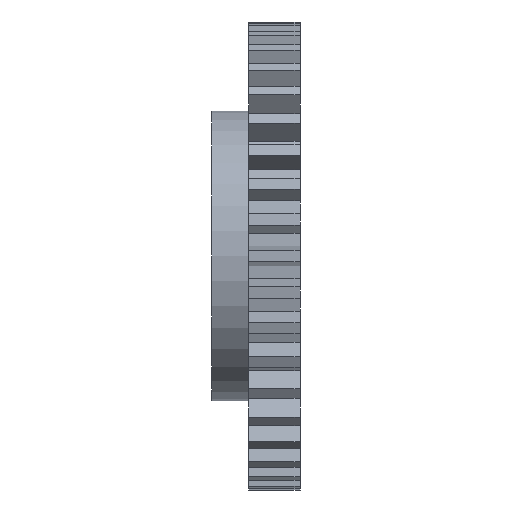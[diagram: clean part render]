
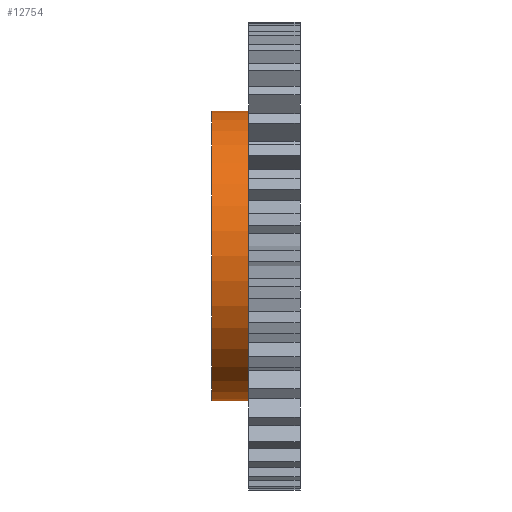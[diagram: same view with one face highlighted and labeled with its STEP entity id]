
A CAD part, front view. The second image highlights one B-rep face of the part: STEP entity #12754.
In plain terms, the highlighted cylindrical face has radius 19.5 mm (diameter 39 mm), a full revolution.
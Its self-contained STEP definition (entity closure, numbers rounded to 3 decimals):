
#126 = PLANE('',#127);
#127 = AXIS2_PLACEMENT_3D('',#128,#129,#130);
#128 = CARTESIAN_POINT('',(69.,0.,-165.));
#129 = DIRECTION('',(1.,0.,0.));
#130 = DIRECTION('',(0.,-1.,0.));
#4682 = EDGE_CURVE('',#4683,#4683,#4685,.T.);
#4683 = VERTEX_POINT('',#4684);
#4684 = CARTESIAN_POINT('',(69.,0.,-145.5));
#4685 = SURFACE_CURVE('',#4686,(#4691,#4698),.PCURVE_S1.);
#4686 = CIRCLE('',#4687,19.5);
#4687 = AXIS2_PLACEMENT_3D('',#4688,#4689,#4690);
#4688 = CARTESIAN_POINT('',(69.,0.,-165.));
#4689 = DIRECTION('',(1.,0.,0.));
#4690 = DIRECTION('',(-0.,0.,1.));
#4691 = PCURVE('',#126,#4692);
#4692 = DEFINITIONAL_REPRESENTATION('',(#4693),#4697);
#4693 = CIRCLE('',#4694,19.5);
#4694 = AXIS2_PLACEMENT_2D('',#4695,#4696);
#4695 = CARTESIAN_POINT('',(0.,0.));
#4696 = DIRECTION('',(0.,-1.));
#4697 = ( GEOMETRIC_REPRESENTATION_CONTEXT(2) 
PARAMETRIC_REPRESENTATION_CONTEXT() REPRESENTATION_CONTEXT('2D SPACE',''
  ) );
#4698 = PCURVE('',#4699,#4704);
#4699 = CYLINDRICAL_SURFACE('',#4700,19.5);
#4700 = AXIS2_PLACEMENT_3D('',#4701,#4702,#4703);
#4701 = CARTESIAN_POINT('',(64.05,0.,-165.));
#4702 = DIRECTION('',(1.,0.,0.));
#4703 = DIRECTION('',(-0.,0.,1.));
#4704 = DEFINITIONAL_REPRESENTATION('',(#4705),#4709);
#4705 = LINE('',#4706,#4707);
#4706 = CARTESIAN_POINT('',(0.,4.95));
#4707 = VECTOR('',#4708,1.);
#4708 = DIRECTION('',(1.,0.));
#4709 = ( GEOMETRIC_REPRESENTATION_CONTEXT(2) 
PARAMETRIC_REPRESENTATION_CONTEXT() REPRESENTATION_CONTEXT('2D SPACE',''
  ) );
#12754 = ADVANCED_FACE('',(#12755),#4699,.T.);
#12755 = FACE_BOUND('',#12756,.T.);
#12756 = EDGE_LOOP('',(#12757,#12758,#12781,#12808));
#12757 = ORIENTED_EDGE('',*,*,#4682,.F.);
#12758 = ORIENTED_EDGE('',*,*,#12759,.F.);
#12759 = EDGE_CURVE('',#12760,#4683,#12762,.T.);
#12760 = VERTEX_POINT('',#12761);
#12761 = CARTESIAN_POINT('',(64.05,0.,-145.5));
#12762 = SEAM_CURVE('',#12763,(#12767,#12774),.PCURVE_S1.);
#12763 = LINE('',#12764,#12765);
#12764 = CARTESIAN_POINT('',(64.05,0.,-145.5));
#12765 = VECTOR('',#12766,1.);
#12766 = DIRECTION('',(1.,0.,0.));
#12767 = PCURVE('',#4699,#12768);
#12768 = DEFINITIONAL_REPRESENTATION('',(#12769),#12773);
#12769 = LINE('',#12770,#12771);
#12770 = CARTESIAN_POINT('',(6.283,-0.));
#12771 = VECTOR('',#12772,1.);
#12772 = DIRECTION('',(0.,1.));
#12773 = ( GEOMETRIC_REPRESENTATION_CONTEXT(2) 
PARAMETRIC_REPRESENTATION_CONTEXT() REPRESENTATION_CONTEXT('2D SPACE',''
  ) );
#12774 = PCURVE('',#4699,#12775);
#12775 = DEFINITIONAL_REPRESENTATION('',(#12776),#12780);
#12776 = LINE('',#12777,#12778);
#12777 = CARTESIAN_POINT('',(0.,-0.));
#12778 = VECTOR('',#12779,1.);
#12779 = DIRECTION('',(0.,1.));
#12780 = ( GEOMETRIC_REPRESENTATION_CONTEXT(2) 
PARAMETRIC_REPRESENTATION_CONTEXT() REPRESENTATION_CONTEXT('2D SPACE',''
  ) );
#12781 = ORIENTED_EDGE('',*,*,#12782,.T.);
#12782 = EDGE_CURVE('',#12760,#12760,#12783,.T.);
#12783 = SURFACE_CURVE('',#12784,(#12789,#12796),.PCURVE_S1.);
#12784 = CIRCLE('',#12785,19.5);
#12785 = AXIS2_PLACEMENT_3D('',#12786,#12787,#12788);
#12786 = CARTESIAN_POINT('',(64.05,0.,-165.));
#12787 = DIRECTION('',(1.,0.,0.));
#12788 = DIRECTION('',(-0.,0.,1.));
#12789 = PCURVE('',#4699,#12790);
#12790 = DEFINITIONAL_REPRESENTATION('',(#12791),#12795);
#12791 = LINE('',#12792,#12793);
#12792 = CARTESIAN_POINT('',(0.,0.));
#12793 = VECTOR('',#12794,1.);
#12794 = DIRECTION('',(1.,0.));
#12795 = ( GEOMETRIC_REPRESENTATION_CONTEXT(2) 
PARAMETRIC_REPRESENTATION_CONTEXT() REPRESENTATION_CONTEXT('2D SPACE',''
  ) );
#12796 = PCURVE('',#12797,#12802);
#12797 = PLANE('',#12798);
#12798 = AXIS2_PLACEMENT_3D('',#12799,#12800,#12801);
#12799 = CARTESIAN_POINT('',(64.05,0.,-165.));
#12800 = DIRECTION('',(1.,0.,0.));
#12801 = DIRECTION('',(-0.,0.,1.));
#12802 = DEFINITIONAL_REPRESENTATION('',(#12803),#12807);
#12803 = CIRCLE('',#12804,19.5);
#12804 = AXIS2_PLACEMENT_2D('',#12805,#12806);
#12805 = CARTESIAN_POINT('',(0.,0.));
#12806 = DIRECTION('',(1.,0.));
#12807 = ( GEOMETRIC_REPRESENTATION_CONTEXT(2) 
PARAMETRIC_REPRESENTATION_CONTEXT() REPRESENTATION_CONTEXT('2D SPACE',''
  ) );
#12808 = ORIENTED_EDGE('',*,*,#12759,.T.);
